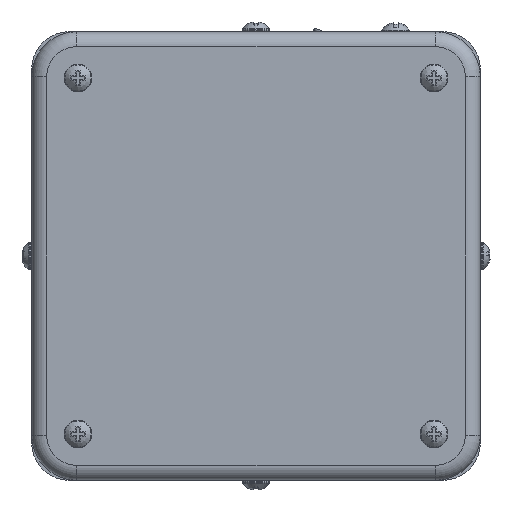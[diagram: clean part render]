
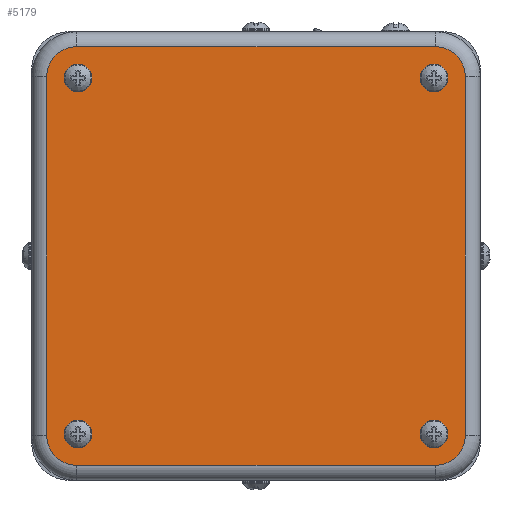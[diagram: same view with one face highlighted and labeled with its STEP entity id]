
A CAD part, left-side view. The second image highlights one B-rep face of the part: STEP entity #5179.
In plain terms, the highlighted planar face has unit normal (-1, 0, 0).
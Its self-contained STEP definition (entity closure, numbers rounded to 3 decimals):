
#210=LINE('',#8618,#568);
#211=LINE('',#8622,#569);
#212=LINE('',#8626,#570);
#213=LINE('',#8629,#571);
#568=VECTOR('',#6408,72.);
#569=VECTOR('',#6411,72.);
#570=VECTOR('',#6414,72.);
#571=VECTOR('',#6417,72.);
#1012=PLANE('',#5544);
#1141=FACE_BOUND('',#1696,.T.);
#1142=FACE_BOUND('',#1697,.T.);
#1143=FACE_BOUND('',#1698,.T.);
#1144=FACE_BOUND('',#1699,.T.);
#1351=FACE_OUTER_BOUND('',#1695,.T.);
#1695=EDGE_LOOP('',(#3944,#3945,#3946,#3947,#3948,#3949,#3950,#3951));
#1696=EDGE_LOOP('',(#3952));
#1697=EDGE_LOOP('',(#3953));
#1698=EDGE_LOOP('',(#3954));
#1699=EDGE_LOOP('',(#3955));
#1952=CIRCLE('',#5379,2.8);
#1959=CIRCLE('',#5404,2.8);
#1966=CIRCLE('',#5429,2.8);
#1996=CIRCLE('',#5545,6.);
#1997=CIRCLE('',#5546,6.);
#1998=CIRCLE('',#5547,6.);
#1999=CIRCLE('',#5548,6.);
#2000=CIRCLE('',#5549,2.8);
#2143=VERTEX_POINT('',#7219);
#2175=VERTEX_POINT('',#7414);
#2207=VERTEX_POINT('',#7611);
#2374=VERTEX_POINT('',#8614);
#2375=VERTEX_POINT('',#8615);
#2376=VERTEX_POINT('',#8617);
#2377=VERTEX_POINT('',#8619);
#2378=VERTEX_POINT('',#8621);
#2379=VERTEX_POINT('',#8623);
#2380=VERTEX_POINT('',#8625);
#2381=VERTEX_POINT('',#8627);
#2382=VERTEX_POINT('',#8630);
#2626=EDGE_CURVE('',#2143,#2143,#1952,.T.);
#2671=EDGE_CURVE('',#2175,#2175,#1959,.T.);
#2716=EDGE_CURVE('',#2207,#2207,#1966,.T.);
#2952=EDGE_CURVE('',#2374,#2375,#1996,.T.);
#2953=EDGE_CURVE('',#2376,#2374,#210,.T.);
#2954=EDGE_CURVE('',#2377,#2376,#1997,.T.);
#2955=EDGE_CURVE('',#2378,#2377,#211,.T.);
#2956=EDGE_CURVE('',#2379,#2378,#1998,.T.);
#2957=EDGE_CURVE('',#2380,#2379,#212,.T.);
#2958=EDGE_CURVE('',#2381,#2380,#1999,.T.);
#2959=EDGE_CURVE('',#2375,#2381,#213,.T.);
#2960=EDGE_CURVE('',#2382,#2382,#2000,.T.);
#3944=ORIENTED_EDGE('',*,*,#2952,.F.);
#3945=ORIENTED_EDGE('',*,*,#2953,.F.);
#3946=ORIENTED_EDGE('',*,*,#2954,.F.);
#3947=ORIENTED_EDGE('',*,*,#2955,.F.);
#3948=ORIENTED_EDGE('',*,*,#2956,.F.);
#3949=ORIENTED_EDGE('',*,*,#2957,.F.);
#3950=ORIENTED_EDGE('',*,*,#2958,.F.);
#3951=ORIENTED_EDGE('',*,*,#2959,.F.);
#3952=ORIENTED_EDGE('',*,*,#2626,.T.);
#3953=ORIENTED_EDGE('',*,*,#2960,.T.);
#3954=ORIENTED_EDGE('',*,*,#2671,.T.);
#3955=ORIENTED_EDGE('',*,*,#2716,.T.);
#5179=ADVANCED_FACE('',(#1351,#1141,#1142,#1143,#1144),#1012,.F.);
#5379=AXIS2_PLACEMENT_3D('',#7220,#5890,#5891);
#5404=AXIS2_PLACEMENT_3D('',#7415,#5964,#5965);
#5429=AXIS2_PLACEMENT_3D('',#7612,#6038,#6039);
#5544=AXIS2_PLACEMENT_3D('',#8613,#6404,#6405);
#5545=AXIS2_PLACEMENT_3D('',#8616,#6406,#6407);
#5546=AXIS2_PLACEMENT_3D('',#8620,#6409,#6410);
#5547=AXIS2_PLACEMENT_3D('',#8624,#6412,#6413);
#5548=AXIS2_PLACEMENT_3D('',#8628,#6415,#6416);
#5549=AXIS2_PLACEMENT_3D('',#8631,#6418,#6419);
#5890=DIRECTION('center_axis',(1.,0.,0.));
#5891=DIRECTION('ref_axis',(0.,0.,-1.));
#5964=DIRECTION('center_axis',(1.,0.,0.));
#5965=DIRECTION('ref_axis',(0.,0.,-1.));
#6038=DIRECTION('center_axis',(1.,0.,0.));
#6039=DIRECTION('ref_axis',(0.,0.,-1.));
#6404=DIRECTION('center_axis',(1.,0.,0.));
#6405=DIRECTION('ref_axis',(0.,0.,1.));
#6406=DIRECTION('center_axis',(1.,0.,0.));
#6407=DIRECTION('ref_axis',(0.,0.707,0.707));
#6408=DIRECTION('',(0.,0.,1.));
#6409=DIRECTION('center_axis',(1.,0.,0.));
#6410=DIRECTION('ref_axis',(0.,0.707,-0.707));
#6411=DIRECTION('',(0.,1.,0.));
#6412=DIRECTION('center_axis',(1.,0.,0.));
#6413=DIRECTION('ref_axis',(0.,-0.707,-0.707));
#6414=DIRECTION('',(0.,0.,-1.));
#6415=DIRECTION('center_axis',(1.,0.,0.));
#6416=DIRECTION('ref_axis',(0.,-0.707,0.707));
#6417=DIRECTION('',(0.,-1.,0.));
#6418=DIRECTION('center_axis',(1.,0.,0.));
#6419=DIRECTION('ref_axis',(0.,0.,-1.));
#7219=CARTESIAN_POINT('',(-54.8,-35.709,-32.909));
#7220=CARTESIAN_POINT('Origin',(-54.8,-35.709,-35.709));
#7414=CARTESIAN_POINT('',(-54.8,-35.709,38.509));
#7415=CARTESIAN_POINT('Origin',(-54.8,-35.709,35.709));
#7611=CARTESIAN_POINT('',(-54.8,35.709,38.509));
#7612=CARTESIAN_POINT('Origin',(-54.8,35.709,35.709));
#8613=CARTESIAN_POINT('Origin',(-54.8,7.027,7.027));
#8614=CARTESIAN_POINT('',(-54.8,42.,36.));
#8615=CARTESIAN_POINT('',(-54.8,36.,42.));
#8616=CARTESIAN_POINT('Origin',(-54.8,36.,36.));
#8617=CARTESIAN_POINT('',(-54.8,42.,-36.));
#8618=CARTESIAN_POINT('',(-54.8,42.,-36.));
#8619=CARTESIAN_POINT('',(-54.8,36.,-42.));
#8620=CARTESIAN_POINT('Origin',(-54.8,36.,-36.));
#8621=CARTESIAN_POINT('',(-54.8,-36.,-42.));
#8622=CARTESIAN_POINT('',(-54.8,-36.,-42.));
#8623=CARTESIAN_POINT('',(-54.8,-42.,-36.));
#8624=CARTESIAN_POINT('Origin',(-54.8,-36.,-36.));
#8625=CARTESIAN_POINT('',(-54.8,-42.,36.));
#8626=CARTESIAN_POINT('',(-54.8,-42.,36.));
#8627=CARTESIAN_POINT('',(-54.8,-36.,42.));
#8628=CARTESIAN_POINT('Origin',(-54.8,-36.,36.));
#8629=CARTESIAN_POINT('',(-54.8,36.,42.));
#8630=CARTESIAN_POINT('',(-54.8,35.709,-32.909));
#8631=CARTESIAN_POINT('Origin',(-54.8,35.709,-35.709));
